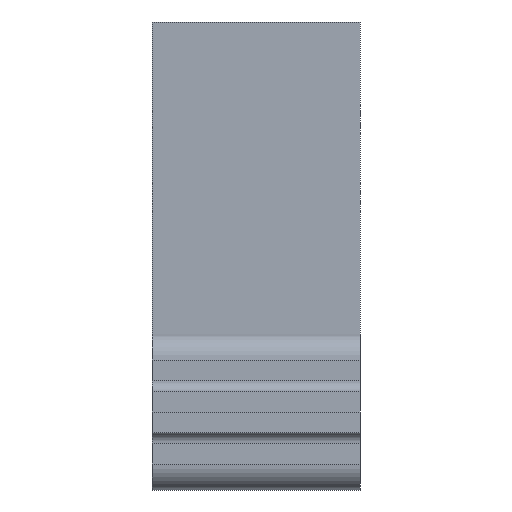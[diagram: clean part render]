
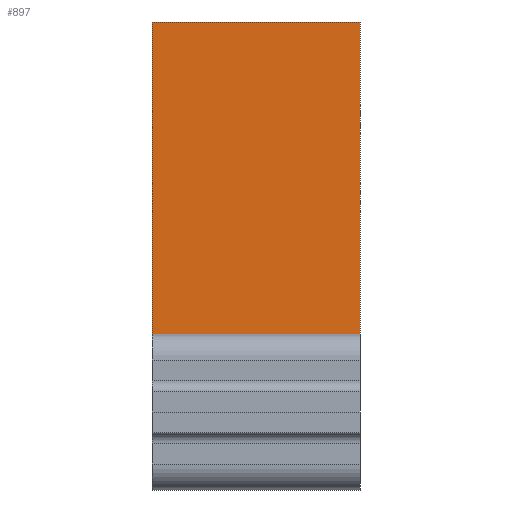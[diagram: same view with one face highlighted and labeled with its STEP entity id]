
A CAD part, front view. The second image highlights one B-rep face of the part: STEP entity #897.
In plain terms, the highlighted planar face has unit normal (0, -1, 0).
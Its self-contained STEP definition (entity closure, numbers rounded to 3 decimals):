
#51=PLANE('',#994);
#95=FACE_OUTER_BOUND('',#153,.T.);
#153=EDGE_LOOP('',(#765,#766,#767,#768));
#233=LINE('',#1479,#319);
#235=LINE('',#1483,#321);
#236=LINE('',#1485,#322);
#237=LINE('',#1486,#323);
#319=VECTOR('',#1220,10.);
#321=VECTOR('',#1224,10.);
#322=VECTOR('',#1225,10.);
#323=VECTOR('',#1226,10.);
#449=VERTEX_POINT('',#1476);
#450=VERTEX_POINT('',#1478);
#451=VERTEX_POINT('',#1482);
#452=VERTEX_POINT('',#1484);
#565=EDGE_CURVE('',#450,#449,#233,.T.);
#567=EDGE_CURVE('',#451,#450,#235,.T.);
#568=EDGE_CURVE('',#452,#449,#236,.T.);
#569=EDGE_CURVE('',#451,#452,#237,.T.);
#765=ORIENTED_EDGE('',*,*,#567,.T.);
#766=ORIENTED_EDGE('',*,*,#565,.T.);
#767=ORIENTED_EDGE('',*,*,#568,.F.);
#768=ORIENTED_EDGE('',*,*,#569,.F.);
#897=ADVANCED_FACE('',(#95),#51,.T.);
#994=AXIS2_PLACEMENT_3D('',#1481,#1222,#1223);
#1220=DIRECTION('',(1.,0.,0.));
#1222=DIRECTION('center_axis',(0.,-1.,0.));
#1223=DIRECTION('ref_axis',(0.,0.,-1.));
#1224=DIRECTION('',(0.,0.,-1.));
#1225=DIRECTION('',(0.,0.,-1.));
#1226=DIRECTION('',(1.,0.,0.));
#1476=CARTESIAN_POINT('',(40.,-3.,15.));
#1478=CARTESIAN_POINT('',(0.,-3.,15.));
#1479=CARTESIAN_POINT('',(0.,-3.,15.));
#1481=CARTESIAN_POINT('Origin',(0.,-3.,75.));
#1482=CARTESIAN_POINT('',(0.,-3.,75.));
#1483=CARTESIAN_POINT('',(0.,-3.,75.));
#1484=CARTESIAN_POINT('',(40.,-3.,75.));
#1485=CARTESIAN_POINT('',(40.,-3.,75.));
#1486=CARTESIAN_POINT('',(0.,-3.,75.));
